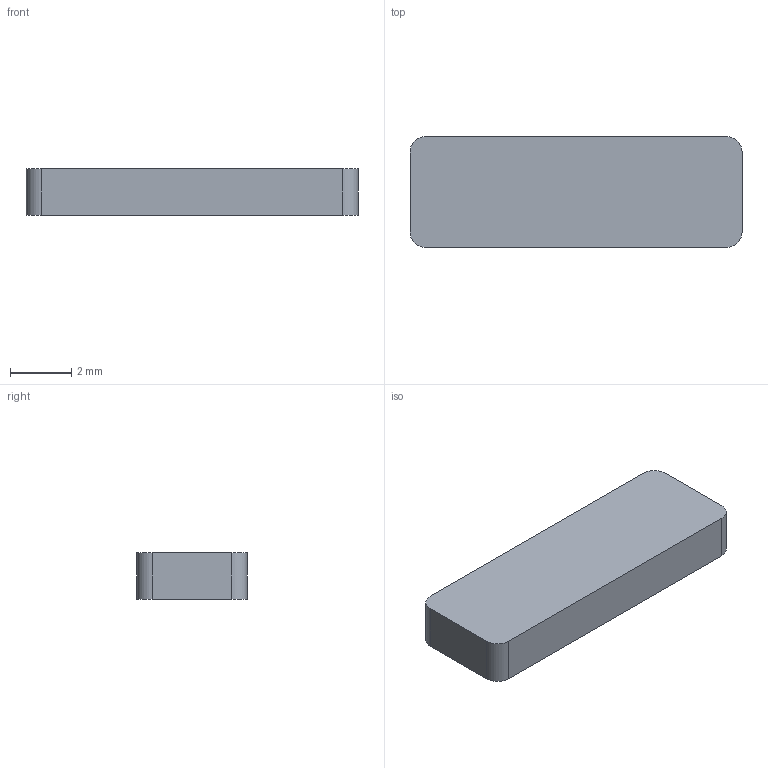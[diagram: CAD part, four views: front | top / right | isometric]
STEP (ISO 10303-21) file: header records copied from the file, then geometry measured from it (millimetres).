
FILE_DESCRIPTION(/* description */ (''),/* implementation_level */ '2;1');
FILE_NAME(/* name */ 'C27_R2_Speaker_Ear_Preload_1.step',/* time_stamp */ '2026-09-10T17:49:07-07:00',/* author */ (''),/* organization */ (''),/* preprocessor_version */ 'ST-DEVELOPER v20.1',/* originating_system */ 'Autodesk Translation Framework v15.8.0.0',/* authorisation */ '');
FILE_SCHEMA (('AUTOMOTIVE_DESIGN { 1 0 10303 214 3 1 1 }'));
Length unit declared in the file: millimetre
Products named in the file (1): 2026-09-10-17-49-07-452
Bounding box: 10.8 x 3.6 x 1.5 mm (x, y, z)
Volume: 58 mm3; surface area: 119.2 mm2
Topology: 1 solids, 1 shells, 10 faces, 24 edges, 16 vertices
Faces by surface type: plane 6, cylinder 4
Entity records: 329 total; most frequent: DIRECTION 54, CARTESIAN_POINT 51, ORIENTED_EDGE 48, EDGE_CURVE 24, AXIS2_PLACEMENT_3D 19, LINE 16, VECTOR 16, VERTEX_POINT 16
